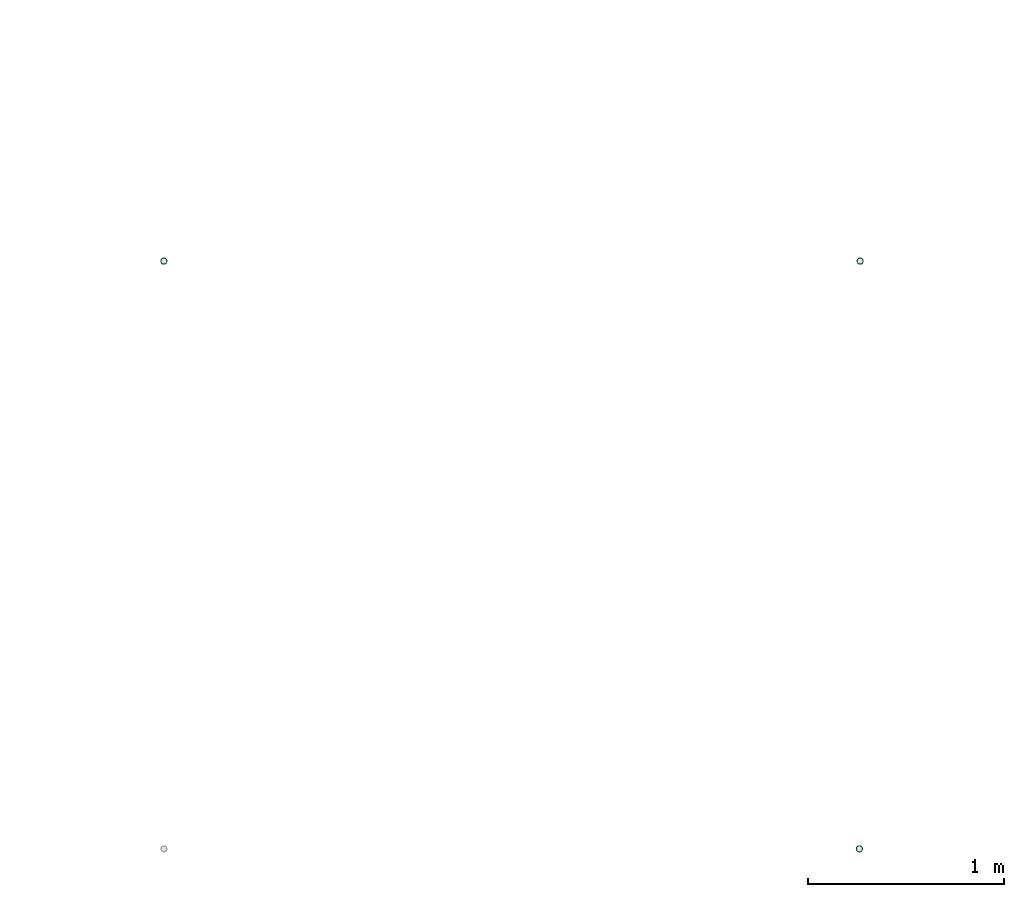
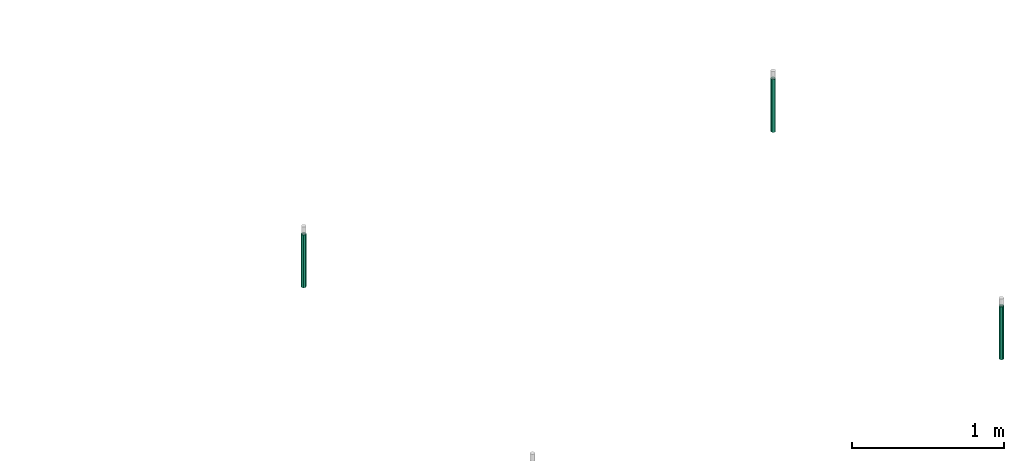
# One storey, part 13 of 14: 3 flow segments.
"""IFC2X3 building model written with IfcOpenShell, lengths in millimetres."""

from ifc_helpers import new_model, entity, si_unit, converted_unit, derived_unit, direction, frame, place, context, subcontext, project, spatial, faceted_brep, type_object, element, save


model = new_model("IFC2X3")

# Units and contexts
model_context = context("Model", 3, precision=0.01, world=frame((0.0, 4.29681676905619e-09, 0.0)), true_north=direction((4.01073788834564e-13, 1.0)))
plan_context = context("Plan", 3, precision=0.01, world=frame((0.0, 4.29681676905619e-09, 0.0)), true_north=direction((4.01073788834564e-13, 1.0)))
body_context = subcontext(model_context, "Body", "Model", "MODEL_VIEW")
ifc_project = project(units=[converted_unit("PLANEANGLEUNIT", "DEGREE", entity("IfcPositiveLengthMeasure", 0.0174532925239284), si_unit("PLANEANGLEUNIT", "RADIAN"), dimensions=[0, 0, 0, 0, 0, 0, 0]), si_unit("AREAUNIT", "SQUARE_METRE"), si_unit("LENGTHUNIT", "METRE", prefix="MILLI"), si_unit("MASSUNIT", "GRAM", prefix="KILO"), si_unit("POWERUNIT", "WATT"), si_unit("PRESSUREUNIT", "PASCAL", prefix="KILO"), si_unit("FORCEUNIT", "NEWTON", prefix="KILO"), si_unit("ELECTRICVOLTAGEUNIT", "VOLT"), si_unit("ELECTRICCURRENTUNIT", "AMPERE"), si_unit("THERMODYNAMICTEMPERATUREUNIT", "DEGREE_CELSIUS"), si_unit("TIMEUNIT", "SECOND"), si_unit("VOLUMEUNIT", "CUBIC_METRE"), derived_unit("LINEARVELOCITYUNIT", [(si_unit("LENGTHUNIT", "METRE"), 1), (si_unit("TIMEUNIT", "SECOND"), -1)]), derived_unit("VOLUMETRICFLOWRATEUNIT", [(si_unit("VOLUMEUNIT", "CUBIC_METRE"), 1), (si_unit("TIMEUNIT", "SECOND"), -1)]), derived_unit("THERMALTRANSMITTANCEUNIT", [(si_unit("POWERUNIT", "WATT"), 1), (si_unit("THERMODYNAMICTEMPERATUREUNIT", "KELVIN"), -1), (si_unit("AREAUNIT", "SQUARE_METRE"), -1)]), derived_unit("SOUNDPRESSUREUNIT", [(si_unit("PRESSUREUNIT", "PASCAL"), 1)])], contexts=[model_context, plan_context])

# Site, building, storey
site_placement = place(None, frame((0.0, -4.29681676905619e-09, 0.0), z_axis=(0.0, 0.0, 1.0), x_axis=(1.0, 0.0, 0.0)))
site = spatial("IfcSite", under=ifc_project, at=site_placement, CompositionType="ELEMENT")
building_placement = place(site_placement, frame((0.0, 4.29681676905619e-09, 0.0), z_axis=(0.0, 0.0, 1.0), x_axis=(1.0, 0.0, 0.0)))
building = spatial("IfcBuilding", under=site, at=building_placement, Name="mc-building", CompositionType="ELEMENT")
storey_placement = place(building_placement, frame((0.0, 0.0, 204000.0), z_axis=(0.0, 0.0, 1.0), x_axis=(1.0, 0.0, 0.0)))
storey = spatial("IfcBuildingStorey", under=building, at=storey_placement, Name="Nivå D", CompositionType="ELEMENT", Elevation=204000.0)

# Flow segments
pipe_segment_type = type_object("IfcPipeSegmentType", Name="Stålrør normaltykke", PredefinedType="RIGIDSEGMENT")
flow_segment_1_placement = place(storey_placement, frame((595282.4709, 573505.33925, 6323.53031), z_axis=(0.0, 1.0, 0.0), x_axis=(0.0, 0.0, -1.0)))
element("IfcFlowSegment", 1, at=flow_segment_1_placement, inside=storey, type_object=pipe_segment_type, Name="Stålrør normaltykke", context=body_context, shape_type="Brep", body=[
    faceted_brep([(423.530310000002, 14.9, 0.0), (423.530310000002, 14.6736355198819, -2.58735784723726), (0.0, 14.6736355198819, -2.58735784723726), (0.0, 14.9, 0.0), (423.530310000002, 14.00142004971, -5.09610013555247), (0.0, 14.00142004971, -5.09610013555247), (423.530310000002, 12.9037785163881, -7.45000000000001), (0.0, 12.9037785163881, -7.45000000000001), (423.530310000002, 11.4140622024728, -9.57753538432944), (0.0, 11.4140622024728, -9.57753538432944), (423.530310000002, 9.57753538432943, -11.4140622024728), (0.0, 9.57753538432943, -11.4140622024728), (423.530310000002, 7.45, -12.9037785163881), (0.0, 7.45, -12.9037785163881), (423.530310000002, 5.09610013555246, -14.00142004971), (0.0, 5.09610013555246, -14.00142004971), (423.530310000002, 2.58735784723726, -14.6736355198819), (0.0, 2.58735784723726, -14.6736355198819), (423.530310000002, -2.73708559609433e-15, -14.9), (0.0, -2.73708559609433e-15, -14.9), (423.530310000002, -2.58735784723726, -14.6736355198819), (0.0, -2.58735784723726, -14.6736355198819), (423.530310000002, -5.09610013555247, -14.00142004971), (0.0, -5.09610013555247, -14.00142004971), (423.530310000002, -7.45000000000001, -12.9037785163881), (0.0, -7.45000000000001, -12.9037785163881), (423.530310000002, -9.57753538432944, -11.4140622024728), (0.0, -9.57753538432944, -11.4140622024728), (423.530310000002, -11.4140622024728, -9.57753538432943), (0.0, -11.4140622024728, -9.57753538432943), (423.530310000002, -12.9037785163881, -7.44999999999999), (0.0, -12.9037785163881, -7.44999999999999), (423.530310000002, -14.00142004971, -5.09610013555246), (0.0, -14.00142004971, -5.09610013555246), (423.530310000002, -14.6736355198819, -2.58735784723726), (0.0, -14.6736355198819, -2.58735784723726), (423.530310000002, -14.9, 1.82472373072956e-15), (0.0, -14.9, 1.82472373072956e-15), (423.530310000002, -14.6736355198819, 2.58735784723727), (0.0, -14.6736355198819, 2.58735784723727), (423.530310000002, -14.00142004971, 5.09610013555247), (0.0, -14.00142004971, 5.09610013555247), (423.530310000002, -12.9037785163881, 7.45), (0.0, -12.9037785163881, 7.45), (423.530310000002, -11.4140622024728, 9.57753538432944), (0.0, -11.4140622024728, 9.57753538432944), (423.530310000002, -9.57753538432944, 11.4140622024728), (0.0, -9.57753538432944, 11.4140622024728), (423.530310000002, -7.45, 12.9037785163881), (0.0, -7.45, 12.9037785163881), (423.530310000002, -5.09610013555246, 14.00142004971), (0.0, -5.09610013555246, 14.00142004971), (423.530310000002, -2.58735784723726, 14.6736355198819), (0.0, -2.58735784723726, 14.6736355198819), (423.530310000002, 9.12361865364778e-16, 14.9), (0.0, 9.12361865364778e-16, 14.9), (423.530310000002, 2.58735784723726, 14.6736355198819), (0.0, 2.58735784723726, 14.6736355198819), (423.530310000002, 5.09610013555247, 14.00142004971), (0.0, 5.09610013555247, 14.00142004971), (423.530310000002, 7.45, 12.9037785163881), (0.0, 7.45, 12.9037785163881), (423.530310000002, 9.57753538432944, 11.4140622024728), (0.0, 9.57753538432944, 11.4140622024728), (423.530310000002, 11.4140622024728, 9.57753538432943), (0.0, 11.4140622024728, 9.57753538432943), (423.530310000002, 12.9037785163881, 7.45), (0.0, 12.9037785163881, 7.45), (423.530310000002, 14.00142004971, 5.09610013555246), (0.0, 14.00142004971, 5.09610013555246), (423.530310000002, 14.6736355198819, 2.58735784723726), (0.0, 14.6736355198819, 2.58735784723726), (423.530310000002, 16.6432510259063, -2.93465420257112), (423.530310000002, 16.9, 0.0), (0.0, 16.9, 0.0), (0.0, 16.6432510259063, -2.93465420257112), (423.530310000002, 16.6432510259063, 2.93465420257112), (0.0, 16.6432510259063, 2.93465420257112), (423.530310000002, 15.8808052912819, 5.7801404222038), (0.0, 15.8808052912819, 5.7801404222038), (423.530310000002, 14.635829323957, 8.45), (0.0, 14.635829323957, 8.45), (423.530310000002, 12.9461510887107, 10.8631106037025), (0.0, 12.9461510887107, 10.8631106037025), (423.530310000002, 10.8631106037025, 12.9461510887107), (0.0, 10.8631106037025, 12.9461510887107), (423.530310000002, 8.45, 14.635829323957), (0.0, 8.45, 14.635829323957), (423.530310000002, 5.7801404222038, 15.8808052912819), (0.0, 5.7801404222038, 15.8808052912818), (423.530310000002, 2.93465420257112, 16.6432510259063), (0.0, 2.93465420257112, 16.6432510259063), (423.530310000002, 1.03482654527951e-15, 16.9), (0.0, 1.03482654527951e-15, 16.9), (423.530310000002, -2.93465420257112, 16.6432510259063), (0.0, -2.93465420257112, 16.6432510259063), (423.530310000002, -5.7801404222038, 15.8808052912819), (0.0, -5.7801404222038, 15.8808052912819), (423.530310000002, -8.45, 14.635829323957), (0.0, -8.45, 14.635829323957), (423.530310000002, -10.8631106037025, 12.9461510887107), (0.0, -10.8631106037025, 12.9461510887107), (423.530310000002, -12.9461510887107, 10.8631106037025), (0.0, -12.9461510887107, 10.8631106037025), (423.530310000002, -14.635829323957, 8.45), (0.0, -14.635829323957, 8.45), (423.530310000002, -15.8808052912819, 5.7801404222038), (0.0, -15.8808052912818, 5.7801404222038), (423.530310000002, -16.6432510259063, 2.93465420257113), (0.0, -16.6432510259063, 2.93465420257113), (423.530310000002, -16.9, 2.06965309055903e-15), (0.0, -16.9, 2.06965309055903e-15), (423.530310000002, -16.6432510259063, -2.93465420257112), (0.0, -16.6432510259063, -2.93465420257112), (423.530310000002, -15.8808052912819, -5.7801404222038), (0.0, -15.8808052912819, -5.7801404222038), (423.530310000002, -14.635829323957, -8.44999999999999), (0.0, -14.635829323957, -8.44999999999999), (423.530310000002, -12.9461510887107, -10.8631106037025), (0.0, -12.9461510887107, -10.8631106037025), (423.530310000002, -10.8631106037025, -12.9461510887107), (0.0, -10.8631106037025, -12.9461510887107), (423.530310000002, -8.45000000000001, -14.635829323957), (0.0, -8.45000000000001, -14.635829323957), (423.530310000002, -5.78014042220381, -15.8808052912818), (0.0, -5.78014042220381, -15.8808052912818), (423.530310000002, -2.93465420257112, -16.6432510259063), (0.0, -2.93465420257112, -16.6432510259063), (423.530310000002, -3.10447963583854e-15, -16.9), (0.0, -3.10447963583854e-15, -16.9), (423.530310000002, 2.93465420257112, -16.6432510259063), (0.0, 2.93465420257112, -16.6432510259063), (423.530310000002, 5.78014042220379, -15.8808052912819), (0.0, 5.78014042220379, -15.8808052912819), (423.530310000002, 8.45, -14.635829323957), (0.0, 8.45, -14.635829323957), (423.530310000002, 10.8631106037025, -12.9461510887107), (0.0, 10.8631106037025, -12.9461510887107), (423.530310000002, 12.9461510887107, -10.8631106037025), (0.0, 12.9461510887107, -10.8631106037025), (423.530310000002, 14.635829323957, -8.45000000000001), (0.0, 14.635829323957, -8.45000000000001), (423.530310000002, 15.8808052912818, -5.78014042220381), (0.0, 15.8808052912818, -5.78014042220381)], [[[0, 1, 2, 3]], [[1, 4, 5, 2]], [[4, 6, 7, 5]], [[6, 8, 9, 7]], [[8, 10, 11, 9]], [[10, 12, 13, 11]], [[12, 14, 15, 13]], [[14, 16, 17, 15]], [[16, 18, 19, 17]], [[18, 20, 21, 19]], [[20, 22, 23, 21]], [[22, 24, 25, 23]], [[24, 26, 27, 25]], [[26, 28, 29, 27]], [[28, 30, 31, 29]], [[30, 32, 33, 31]], [[32, 34, 35, 33]], [[34, 36, 37, 35]], [[36, 38, 39, 37]], [[38, 40, 41, 39]], [[40, 42, 43, 41]], [[42, 44, 45, 43]], [[44, 46, 47, 45]], [[46, 48, 49, 47]], [[48, 50, 51, 49]], [[50, 52, 53, 51]], [[52, 54, 55, 53]], [[54, 56, 57, 55]], [[56, 58, 59, 57]], [[58, 60, 61, 59]], [[60, 62, 63, 61]], [[62, 64, 65, 63]], [[64, 66, 67, 65]], [[66, 68, 69, 67]], [[68, 70, 71, 69]], [[70, 0, 3, 71]], [[72, 73, 74, 75]], [[73, 76, 77, 74]], [[76, 78, 79, 77]], [[78, 80, 81, 79]], [[80, 82, 83, 81]], [[82, 84, 85, 83]], [[84, 86, 87, 85]], [[86, 88, 89, 87]], [[88, 90, 91, 89]], [[90, 92, 93, 91]], [[92, 94, 95, 93]], [[94, 96, 97, 95]], [[96, 98, 99, 97]], [[98, 100, 101, 99]], [[100, 102, 103, 101]], [[102, 104, 105, 103]], [[104, 106, 107, 105]], [[106, 108, 109, 107]], [[108, 110, 111, 109]], [[110, 112, 113, 111]], [[112, 114, 115, 113]], [[114, 116, 117, 115]], [[116, 118, 119, 117]], [[118, 120, 121, 119]], [[120, 122, 123, 121]], [[122, 124, 125, 123]], [[124, 126, 127, 125]], [[126, 128, 129, 127]], [[128, 130, 131, 129]], [[130, 132, 133, 131]], [[132, 134, 135, 133]], [[134, 136, 137, 135]], [[136, 138, 139, 137]], [[138, 140, 141, 139]], [[140, 142, 143, 141]], [[142, 72, 75, 143]], [[75, 74, 77, 79, 81, 83, 85, 87, 89, 91, 93, 95, 97, 99, 101, 103, 105, 107, 109, 111, 113, 115, 117, 119, 121, 123, 125, 127, 129, 131, 133, 135, 137, 139, 141, 143], [3, 2, 5, 7, 9, 11, 13, 15, 17, 19, 21, 23, 25, 27, 29, 31, 33, 35, 37, 39, 41, 43, 45, 47, 49, 51, 53, 55, 57, 59, 61, 63, 65, 67, 69, 71]], [[142, 140, 138, 136, 134, 132, 130, 128, 126, 124, 122, 120, 118, 116, 114, 112, 110, 108, 106, 104, 102, 100, 98, 96, 94, 92, 90, 88, 86, 84, 82, 80, 78, 76, 73, 72], [70, 68, 66, 64, 62, 60, 58, 56, 54, 52, 50, 48, 46, 44, 42, 40, 38, 36, 34, 32, 30, 28, 26, 24, 22, 20, 18, 16, 14, 12, 10, 8, 6, 4, 1, 0]]], orient=[[False], [False], [False], [False], [False], [False], [False], [False], [False], [False], [False], [False], [False], [False], [False], [False], [False], [False], [False], [False], [False], [False], [False], [False], [False], [False], [False], [False], [False], [False], [False], [False], [False], [False], [False], [False], [False], [False], [False], [False], [False], [False], [False], [False], [False], [False], [False], [False], [False], [False], [False], [False], [False], [False], [False], [False], [False], [False], [False], [False], [False], [False], [False], [False], [False], [False], [False], [False], [False], [False], [False], [False], [False, False], [False, False]]),
])
flow_segment_2_placement = place(storey_placement, frame((598842.4709, 573505.33925, 5536.29999999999), z_axis=(0.0, 1.0, 0.0), x_axis=(0.0, 0.0, 1.0)))
element("IfcFlowSegment", 2, at=flow_segment_2_placement, inside=storey, type_object=pipe_segment_type, Name="Stålrør normaltykke", context=body_context, shape_type="Brep", body=[
    faceted_brep([(363.700000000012, 14.6736355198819, -2.58735784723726), (363.700000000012, 14.9, 0.0), (787.3, 14.9, 0.0), (787.3, 14.6736355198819, -2.58735784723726), (363.700000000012, 14.00142004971, -5.09610013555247), (787.3, 14.00142004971, -5.09610013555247), (363.700000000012, 12.9037785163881, -7.45), (787.3, 12.9037785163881, -7.45000000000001), (363.700000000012, 11.4140622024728, -9.57753538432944), (787.3, 11.4140622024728, -9.57753538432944), (363.700000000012, 9.57753538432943, -11.4140622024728), (787.3, 9.57753538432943, -11.4140622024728), (363.700000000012, 7.45, -12.9037785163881), (787.3, 7.45, -12.9037785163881), (363.700000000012, 5.09610013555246, -14.00142004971), (787.3, 5.09610013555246, -14.00142004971), (363.700000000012, 2.58735784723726, -14.6736355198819), (787.3, 2.58735784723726, -14.6736355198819), (363.700000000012, -2.73708559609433e-15, -14.9), (787.3, -2.73708559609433e-15, -14.9), (363.700000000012, -2.58735784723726, -14.6736355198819), (787.3, -2.58735784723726, -14.6736355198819), (363.700000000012, -5.09610013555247, -14.00142004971), (787.3, -5.09610013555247, -14.00142004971), (363.700000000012, -7.45, -12.9037785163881), (787.3, -7.45000000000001, -12.9037785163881), (363.700000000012, -9.57753538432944, -11.4140622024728), (787.3, -9.57753538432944, -11.4140622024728), (363.700000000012, -11.4140622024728, -9.57753538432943), (787.3, -11.4140622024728, -9.57753538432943), (363.700000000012, -12.9037785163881, -7.44999999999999), (787.3, -12.9037785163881, -7.44999999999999), (363.700000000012, -14.00142004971, -5.09610013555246), (787.3, -14.00142004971, -5.09610013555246), (363.700000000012, -14.6736355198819, -2.58735784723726), (787.3, -14.6736355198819, -2.58735784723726), (363.700000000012, -14.9, 1.82472373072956e-15), (787.3, -14.9, 1.82472373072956e-15), (363.700000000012, -14.6736355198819, 2.58735784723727), (787.3, -14.6736355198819, 2.58735784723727), (363.700000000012, -14.00142004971, 5.09610013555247), (787.3, -14.00142004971, 5.09610013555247), (363.700000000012, -12.9037785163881, 7.45), (787.3, -12.9037785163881, 7.45), (363.700000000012, -11.4140622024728, 9.57753538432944), (787.3, -11.4140622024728, 9.57753538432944), (363.700000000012, -9.57753538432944, 11.4140622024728), (787.3, -9.57753538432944, 11.4140622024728), (363.700000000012, -7.45, 12.9037785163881), (787.3, -7.45, 12.9037785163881), (363.700000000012, -5.09610013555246, 14.00142004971), (787.3, -5.09610013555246, 14.00142004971), (363.700000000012, -2.58735784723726, 14.6736355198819), (787.3, -2.58735784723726, 14.6736355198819), (363.700000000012, 9.12361865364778e-16, 14.9), (787.3, 9.12361865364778e-16, 14.9), (363.700000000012, 2.58735784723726, 14.6736355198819), (787.3, 2.58735784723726, 14.6736355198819), (363.700000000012, 5.09610013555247, 14.00142004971), (787.3, 5.09610013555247, 14.00142004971), (363.700000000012, 7.45, 12.9037785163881), (787.3, 7.45, 12.9037785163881), (363.700000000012, 9.57753538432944, 11.4140622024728), (787.3, 9.57753538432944, 11.4140622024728), (363.700000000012, 11.4140622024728, 9.57753538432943), (787.3, 11.4140622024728, 9.57753538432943), (363.700000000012, 12.9037785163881, 7.45), (787.3, 12.9037785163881, 7.45), (363.700000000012, 14.00142004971, 5.09610013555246), (787.3, 14.00142004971, 5.09610013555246), (363.700000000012, 14.6736355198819, 2.58735784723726), (787.3, 14.6736355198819, 2.58735784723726), (363.700000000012, 16.9, 0.0), (363.700000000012, 16.6432510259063, -2.93465420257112), (787.3, 16.6432510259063, -2.93465420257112), (787.3, 16.9, 0.0), (363.700000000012, 16.6432510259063, 2.93465420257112), (787.3, 16.6432510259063, 2.93465420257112), (363.700000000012, 15.8808052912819, 5.7801404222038), (787.3, 15.8808052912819, 5.7801404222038), (363.700000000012, 14.635829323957, 8.45), (787.3, 14.635829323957, 8.45), (363.700000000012, 12.9461510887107, 10.8631106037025), (787.3, 12.9461510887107, 10.8631106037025), (363.700000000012, 10.8631106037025, 12.9461510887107), (787.3, 10.8631106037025, 12.9461510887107), (363.700000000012, 8.45, 14.635829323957), (787.3, 8.45, 14.635829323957), (363.700000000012, 5.7801404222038, 15.8808052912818), (787.3, 5.7801404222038, 15.8808052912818), (363.700000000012, 2.93465420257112, 16.6432510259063), (787.3, 2.93465420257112, 16.6432510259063), (363.700000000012, 1.03482654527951e-15, 16.9), (787.3, 1.03482654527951e-15, 16.9), (363.700000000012, -2.93465420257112, 16.6432510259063), (787.3, -2.93465420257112, 16.6432510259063), (363.700000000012, -5.7801404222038, 15.8808052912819), (787.3, -5.7801404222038, 15.8808052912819), (363.700000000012, -8.45, 14.635829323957), (787.3, -8.45, 14.635829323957), (363.700000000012, -10.8631106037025, 12.9461510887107), (787.3, -10.8631106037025, 12.9461510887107), (363.700000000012, -12.9461510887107, 10.8631106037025), (787.3, -12.9461510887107, 10.8631106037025), (363.700000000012, -14.635829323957, 8.45), (787.3, -14.635829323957, 8.45), (363.700000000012, -15.8808052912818, 5.7801404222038), (787.3, -15.8808052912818, 5.7801404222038), (363.700000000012, -16.6432510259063, 2.93465420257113), (787.3, -16.6432510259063, 2.93465420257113), (363.700000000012, -16.9, 2.06965309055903e-15), (787.3, -16.9, 2.06965309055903e-15), (363.700000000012, -16.6432510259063, -2.93465420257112), (787.3, -16.6432510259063, -2.93465420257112), (363.700000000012, -15.8808052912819, -5.7801404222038), (787.3, -15.8808052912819, -5.7801404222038), (363.700000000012, -14.635829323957, -8.44999999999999), (787.3, -14.635829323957, -8.44999999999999), (363.700000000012, -12.9461510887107, -10.8631106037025), (787.3, -12.9461510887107, -10.8631106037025), (363.700000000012, -10.8631106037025, -12.9461510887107), (787.3, -10.8631106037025, -12.9461510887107), (363.700000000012, -8.45000000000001, -14.635829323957), (787.3, -8.45000000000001, -14.635829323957), (363.700000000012, -5.78014042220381, -15.8808052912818), (787.3, -5.78014042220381, -15.8808052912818), (363.700000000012, -2.93465420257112, -16.6432510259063), (787.3, -2.93465420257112, -16.6432510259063), (363.700000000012, -3.10447963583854e-15, -16.9), (787.3, -3.10447963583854e-15, -16.9), (363.700000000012, 2.93465420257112, -16.6432510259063), (787.3, 2.93465420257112, -16.6432510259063), (363.700000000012, 5.78014042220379, -15.8808052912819), (787.3, 5.78014042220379, -15.8808052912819), (363.700000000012, 8.45, -14.635829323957), (787.3, 8.45, -14.635829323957), (363.700000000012, 10.8631106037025, -12.9461510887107), (787.3, 10.8631106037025, -12.9461510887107), (363.700000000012, 12.9461510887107, -10.8631106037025), (787.3, 12.9461510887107, -10.8631106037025), (363.700000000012, 14.635829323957, -8.45000000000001), (787.3, 14.635829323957, -8.45000000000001), (363.700000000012, 15.8808052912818, -5.78014042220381), (787.3, 15.8808052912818, -5.78014042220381)], [[[0, 1, 2, 3]], [[4, 0, 3, 5]], [[6, 4, 5, 7]], [[8, 6, 7, 9]], [[10, 8, 9, 11]], [[12, 10, 11, 13]], [[14, 12, 13, 15]], [[16, 14, 15, 17]], [[18, 16, 17, 19]], [[20, 18, 19, 21]], [[22, 20, 21, 23]], [[24, 22, 23, 25]], [[26, 24, 25, 27]], [[28, 26, 27, 29]], [[30, 28, 29, 31]], [[32, 30, 31, 33]], [[34, 32, 33, 35]], [[36, 34, 35, 37]], [[38, 36, 37, 39]], [[40, 38, 39, 41]], [[42, 40, 41, 43]], [[44, 42, 43, 45]], [[46, 44, 45, 47]], [[48, 46, 47, 49]], [[50, 48, 49, 51]], [[52, 50, 51, 53]], [[54, 52, 53, 55]], [[56, 54, 55, 57]], [[58, 56, 57, 59]], [[60, 58, 59, 61]], [[62, 60, 61, 63]], [[64, 62, 63, 65]], [[66, 64, 65, 67]], [[68, 66, 67, 69]], [[70, 68, 69, 71]], [[1, 70, 71, 2]], [[72, 73, 74, 75]], [[76, 72, 75, 77]], [[78, 76, 77, 79]], [[80, 78, 79, 81]], [[82, 80, 81, 83]], [[84, 82, 83, 85]], [[86, 84, 85, 87]], [[88, 86, 87, 89]], [[90, 88, 89, 91]], [[92, 90, 91, 93]], [[94, 92, 93, 95]], [[96, 94, 95, 97]], [[98, 96, 97, 99]], [[100, 98, 99, 101]], [[102, 100, 101, 103]], [[104, 102, 103, 105]], [[106, 104, 105, 107]], [[108, 106, 107, 109]], [[110, 108, 109, 111]], [[112, 110, 111, 113]], [[114, 112, 113, 115]], [[116, 114, 115, 117]], [[118, 116, 117, 119]], [[120, 118, 119, 121]], [[122, 120, 121, 123]], [[124, 122, 123, 125]], [[126, 124, 125, 127]], [[128, 126, 127, 129]], [[130, 128, 129, 131]], [[132, 130, 131, 133]], [[134, 132, 133, 135]], [[136, 134, 135, 137]], [[138, 136, 137, 139]], [[140, 138, 139, 141]], [[142, 140, 141, 143]], [[73, 142, 143, 74]], [[75, 74, 143, 141, 139, 137, 135, 133, 131, 129, 127, 125, 123, 121, 119, 117, 115, 113, 111, 109, 107, 105, 103, 101, 99, 97, 95, 93, 91, 89, 87, 85, 83, 81, 79, 77], [2, 71, 69, 67, 65, 63, 61, 59, 57, 55, 53, 51, 49, 47, 45, 43, 41, 39, 37, 35, 33, 31, 29, 27, 25, 23, 21, 19, 17, 15, 13, 11, 9, 7, 5, 3]], [[76, 78, 80, 82, 84, 86, 88, 90, 92, 94, 96, 98, 100, 102, 104, 106, 108, 110, 112, 114, 116, 118, 120, 122, 124, 126, 128, 130, 132, 134, 136, 138, 140, 142, 73, 72], [4, 6, 8, 10, 12, 14, 16, 18, 20, 22, 24, 26, 28, 30, 32, 34, 36, 38, 40, 42, 44, 46, 48, 50, 52, 54, 56, 58, 60, 62, 64, 66, 68, 70, 1, 0]]], orient=[[False], [False], [False], [False], [False], [False], [False], [False], [False], [False], [False], [False], [False], [False], [False], [False], [False], [False], [False], [False], [False], [False], [False], [False], [False], [False], [False], [False], [False], [False], [False], [False], [False], [False], [False], [False], [False], [False], [False], [False], [False], [False], [False], [False], [False], [False], [False], [False], [False], [False], [False], [False], [False], [False], [False], [False], [False], [False], [False], [False], [False], [False], [False], [False], [False], [False], [False], [False], [False], [False], [False], [False], [False, False], [False, False]]),
])
flow_segment_3_placement = place(storey_placement, frame((598839.0246, 570500.0, 5536.29999999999), z_axis=(0.0, 1.0, 0.0), x_axis=(0.0, 0.0, 1.0)))
element("IfcFlowSegment", 3, at=flow_segment_3_placement, inside=storey, type_object=pipe_segment_type, Name="Stålrør normaltykke", context=body_context, shape_type="Brep", body=[
    faceted_brep([(363.700000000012, 14.6736355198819, -2.58735784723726), (363.700000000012, 14.9, 0.0), (788.5, 14.9, 0.0), (788.5, 14.6736355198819, -2.58735784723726), (363.700000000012, 14.00142004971, -5.09610013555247), (788.5, 14.00142004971, -5.09610013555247), (363.700000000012, 12.9037785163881, -7.45000000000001), (788.5, 12.9037785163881, -7.45000000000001), (363.700000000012, 11.4140622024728, -9.57753538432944), (788.5, 11.4140622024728, -9.57753538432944), (363.700000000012, 9.57753538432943, -11.4140622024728), (788.5, 9.57753538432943, -11.4140622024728), (363.700000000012, 7.45, -12.9037785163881), (788.5, 7.45, -12.9037785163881), (363.700000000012, 5.09610013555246, -14.00142004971), (788.5, 5.09610013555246, -14.00142004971), (363.700000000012, 2.58735784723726, -14.6736355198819), (788.5, 2.58735784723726, -14.6736355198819), (363.700000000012, -2.73708559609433e-15, -14.9), (788.5, -2.73708559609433e-15, -14.9), (363.700000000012, -2.58735784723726, -14.6736355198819), (788.5, -2.58735784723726, -14.6736355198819), (363.700000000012, -5.09610013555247, -14.00142004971), (788.5, -5.09610013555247, -14.00142004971), (363.700000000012, -7.45000000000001, -12.9037785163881), (788.5, -7.45000000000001, -12.9037785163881), (363.700000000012, -9.57753538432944, -11.4140622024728), (788.5, -9.57753538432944, -11.4140622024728), (363.700000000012, -11.4140622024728, -9.57753538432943), (788.5, -11.4140622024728, -9.57753538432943), (363.700000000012, -12.9037785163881, -7.45), (788.5, -12.9037785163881, -7.44999999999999), (363.700000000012, -14.00142004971, -5.09610013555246), (788.5, -14.00142004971, -5.09610013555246), (363.700000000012, -14.6736355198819, -2.58735784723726), (788.5, -14.6736355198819, -2.58735784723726), (363.700000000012, -14.9, 1.82472373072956e-15), (788.5, -14.9, 1.82472373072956e-15), (363.700000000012, -14.6736355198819, 2.58735784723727), (788.5, -14.6736355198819, 2.58735784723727), (363.700000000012, -14.00142004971, 5.09610013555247), (788.5, -14.00142004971, 5.09610013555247), (363.700000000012, -12.9037785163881, 7.45), (788.5, -12.9037785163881, 7.45), (363.700000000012, -11.4140622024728, 9.57753538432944), (788.5, -11.4140622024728, 9.57753538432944), (363.700000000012, -9.57753538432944, 11.4140622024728), (788.5, -9.57753538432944, 11.4140622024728), (363.700000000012, -7.45, 12.9037785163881), (788.5, -7.45, 12.9037785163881), (363.700000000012, -5.09610013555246, 14.00142004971), (788.5, -5.09610013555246, 14.00142004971), (363.700000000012, -2.58735784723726, 14.6736355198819), (788.5, -2.58735784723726, 14.6736355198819), (363.700000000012, 9.12361865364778e-16, 14.9), (788.5, 9.12361865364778e-16, 14.9), (363.700000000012, 2.58735784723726, 14.6736355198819), (788.5, 2.58735784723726, 14.6736355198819), (363.700000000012, 5.09610013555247, 14.00142004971), (788.5, 5.09610013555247, 14.00142004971), (363.700000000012, 7.45, 12.9037785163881), (788.5, 7.45, 12.9037785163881), (363.700000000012, 9.57753538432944, 11.4140622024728), (788.5, 9.57753538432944, 11.4140622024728), (363.700000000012, 11.4140622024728, 9.57753538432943), (788.5, 11.4140622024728, 9.57753538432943), (363.700000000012, 12.9037785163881, 7.45), (788.5, 12.9037785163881, 7.45), (363.700000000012, 14.00142004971, 5.09610013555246), (788.5, 14.00142004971, 5.09610013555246), (363.700000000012, 14.6736355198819, 2.58735784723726), (788.5, 14.6736355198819, 2.58735784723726), (363.700000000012, 16.9, 0.0), (363.700000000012, 16.6432510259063, -2.93465420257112), (788.5, 16.6432510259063, -2.93465420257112), (788.5, 16.9, 0.0), (363.700000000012, 16.6432510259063, 2.93465420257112), (788.5, 16.6432510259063, 2.93465420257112), (363.700000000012, 15.8808052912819, 5.7801404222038), (788.5, 15.8808052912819, 5.7801404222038), (363.700000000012, 14.635829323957, 8.45), (788.5, 14.635829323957, 8.45), (363.700000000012, 12.9461510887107, 10.8631106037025), (788.5, 12.9461510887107, 10.8631106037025), (363.700000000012, 10.8631106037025, 12.9461510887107), (788.5, 10.8631106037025, 12.9461510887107), (363.700000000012, 8.45, 14.635829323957), (788.5, 8.45, 14.635829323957), (363.700000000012, 5.7801404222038, 15.8808052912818), (788.5, 5.7801404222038, 15.8808052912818), (363.700000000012, 2.93465420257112, 16.6432510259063), (788.5, 2.93465420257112, 16.6432510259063), (363.700000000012, 1.03482654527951e-15, 16.9), (788.5, 1.03482654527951e-15, 16.9), (363.700000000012, -2.93465420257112, 16.6432510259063), (788.5, -2.93465420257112, 16.6432510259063), (363.700000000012, -5.7801404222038, 15.8808052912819), (788.5, -5.7801404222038, 15.8808052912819), (363.700000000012, -8.45, 14.635829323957), (788.5, -8.45, 14.635829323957), (363.700000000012, -10.8631106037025, 12.9461510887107), (788.5, -10.8631106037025, 12.9461510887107), (363.700000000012, -12.9461510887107, 10.8631106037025), (788.5, -12.9461510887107, 10.8631106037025), (363.700000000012, -14.635829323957, 8.45), (788.5, -14.635829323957, 8.45), (363.700000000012, -15.8808052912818, 5.7801404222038), (788.5, -15.8808052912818, 5.7801404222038), (363.700000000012, -16.6432510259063, 2.93465420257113), (788.5, -16.6432510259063, 2.93465420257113), (363.700000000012, -16.9, 2.06965309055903e-15), (788.5, -16.9, 2.06965309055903e-15), (363.700000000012, -16.6432510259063, -2.93465420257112), (788.5, -16.6432510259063, -2.93465420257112), (363.700000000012, -15.8808052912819, -5.7801404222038), (788.5, -15.8808052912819, -5.7801404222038), (363.700000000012, -14.635829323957, -8.44999999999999), (788.5, -14.635829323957, -8.44999999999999), (363.700000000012, -12.9461510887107, -10.8631106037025), (788.5, -12.9461510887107, -10.8631106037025), (363.700000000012, -10.8631106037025, -12.9461510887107), (788.5, -10.8631106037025, -12.9461510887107), (363.700000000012, -8.45000000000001, -14.635829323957), (788.5, -8.45000000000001, -14.635829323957), (363.700000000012, -5.78014042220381, -15.8808052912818), (788.5, -5.78014042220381, -15.8808052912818), (363.700000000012, -2.93465420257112, -16.6432510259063), (788.5, -2.93465420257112, -16.6432510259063), (363.700000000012, -3.10447963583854e-15, -16.9), (788.5, -3.10447963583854e-15, -16.9), (363.700000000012, 2.93465420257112, -16.6432510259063), (788.5, 2.93465420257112, -16.6432510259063), (363.700000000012, 5.78014042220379, -15.8808052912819), (788.5, 5.78014042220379, -15.8808052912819), (363.700000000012, 8.45, -14.635829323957), (788.5, 8.45, -14.635829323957), (363.700000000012, 10.8631106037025, -12.9461510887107), (788.5, 10.8631106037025, -12.9461510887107), (363.700000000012, 12.9461510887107, -10.8631106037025), (788.5, 12.9461510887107, -10.8631106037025), (363.700000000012, 14.635829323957, -8.45000000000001), (788.5, 14.635829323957, -8.45000000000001), (363.700000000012, 15.8808052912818, -5.78014042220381), (788.5, 15.8808052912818, -5.78014042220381)], [[[0, 1, 2, 3]], [[4, 0, 3, 5]], [[6, 4, 5, 7]], [[8, 6, 7, 9]], [[10, 8, 9, 11]], [[12, 10, 11, 13]], [[14, 12, 13, 15]], [[16, 14, 15, 17]], [[18, 16, 17, 19]], [[20, 18, 19, 21]], [[22, 20, 21, 23]], [[24, 22, 23, 25]], [[26, 24, 25, 27]], [[28, 26, 27, 29]], [[30, 28, 29, 31]], [[32, 30, 31, 33]], [[34, 32, 33, 35]], [[36, 34, 35, 37]], [[38, 36, 37, 39]], [[40, 38, 39, 41]], [[42, 40, 41, 43]], [[44, 42, 43, 45]], [[46, 44, 45, 47]], [[48, 46, 47, 49]], [[50, 48, 49, 51]], [[52, 50, 51, 53]], [[54, 52, 53, 55]], [[56, 54, 55, 57]], [[58, 56, 57, 59]], [[60, 58, 59, 61]], [[62, 60, 61, 63]], [[64, 62, 63, 65]], [[66, 64, 65, 67]], [[68, 66, 67, 69]], [[70, 68, 69, 71]], [[1, 70, 71, 2]], [[72, 73, 74, 75]], [[76, 72, 75, 77]], [[78, 76, 77, 79]], [[80, 78, 79, 81]], [[82, 80, 81, 83]], [[84, 82, 83, 85]], [[86, 84, 85, 87]], [[88, 86, 87, 89]], [[90, 88, 89, 91]], [[92, 90, 91, 93]], [[94, 92, 93, 95]], [[96, 94, 95, 97]], [[98, 96, 97, 99]], [[100, 98, 99, 101]], [[102, 100, 101, 103]], [[104, 102, 103, 105]], [[106, 104, 105, 107]], [[108, 106, 107, 109]], [[110, 108, 109, 111]], [[112, 110, 111, 113]], [[114, 112, 113, 115]], [[116, 114, 115, 117]], [[118, 116, 117, 119]], [[120, 118, 119, 121]], [[122, 120, 121, 123]], [[124, 122, 123, 125]], [[126, 124, 125, 127]], [[128, 126, 127, 129]], [[130, 128, 129, 131]], [[132, 130, 131, 133]], [[134, 132, 133, 135]], [[136, 134, 135, 137]], [[138, 136, 137, 139]], [[140, 138, 139, 141]], [[142, 140, 141, 143]], [[73, 142, 143, 74]], [[75, 74, 143, 141, 139, 137, 135, 133, 131, 129, 127, 125, 123, 121, 119, 117, 115, 113, 111, 109, 107, 105, 103, 101, 99, 97, 95, 93, 91, 89, 87, 85, 83, 81, 79, 77], [2, 71, 69, 67, 65, 63, 61, 59, 57, 55, 53, 51, 49, 47, 45, 43, 41, 39, 37, 35, 33, 31, 29, 27, 25, 23, 21, 19, 17, 15, 13, 11, 9, 7, 5, 3]], [[76, 78, 80, 82, 84, 86, 88, 90, 92, 94, 96, 98, 100, 102, 104, 106, 108, 110, 112, 114, 116, 118, 120, 122, 124, 126, 128, 130, 132, 134, 136, 138, 140, 142, 73, 72], [4, 6, 8, 10, 12, 14, 16, 18, 20, 22, 24, 26, 28, 30, 32, 34, 36, 38, 40, 42, 44, 46, 48, 50, 52, 54, 56, 58, 60, 62, 64, 66, 68, 70, 1, 0]]], orient=[[False], [False], [False], [False], [False], [False], [False], [False], [False], [False], [False], [False], [False], [False], [False], [False], [False], [False], [False], [False], [False], [False], [False], [False], [False], [False], [False], [False], [False], [False], [False], [False], [False], [False], [False], [False], [False], [False], [False], [False], [False], [False], [False], [False], [False], [False], [False], [False], [False], [False], [False], [False], [False], [False], [False], [False], [False], [False], [False], [False], [False], [False], [False], [False], [False], [False], [False], [False], [False], [False], [False], [False], [False, False], [False, False]]),
])

save(model, "model.ifc")
